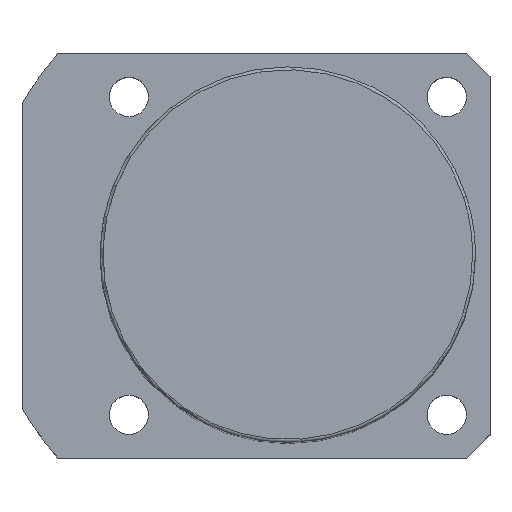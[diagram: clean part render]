
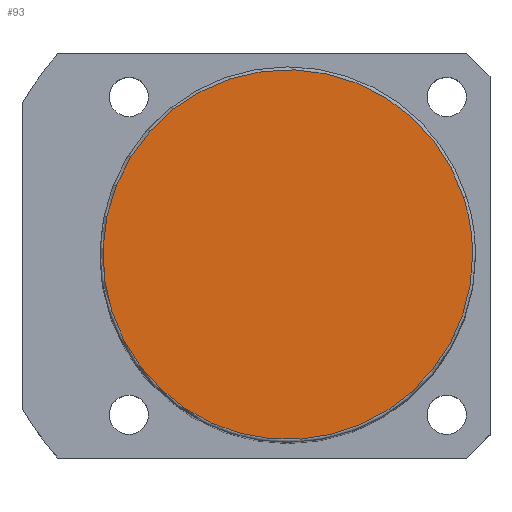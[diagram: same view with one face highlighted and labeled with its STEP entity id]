
A CAD part, top view. The second image highlights one B-rep face of the part: STEP entity #93.
In plain terms, the highlighted planar face has unit normal (0, 0, 1).
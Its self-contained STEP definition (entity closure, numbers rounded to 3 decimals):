
#16=CARTESIAN_POINT('',(30.434,9.889,136.0));
#17=VERTEX_POINT('',#16);
#45=CARTESIAN_POINT('',(-30.434,-9.889,136.0));
#46=VERTEX_POINT('',#45);
#54=CARTESIAN_POINT('',(0.0,0.0,136.0));
#55=DIRECTION('',(0.0,0.0,1.0));
#56=DIRECTION('',(1.0,0.0,0.0));
#57=AXIS2_PLACEMENT_3D('',#54,#55,#56);
#58=CIRCLE('',#57,32.0);
#59=EDGE_CURVE('no 890',#17,#46,#58,.T.);
#69=CARTESIAN_POINT('',(32.0,0.0,136.0));
#70=VERTEX_POINT('',#69);
#71=CARTESIAN_POINT('',(0.0,0.0,136.0));
#72=DIRECTION('',(0.0,0.0,1.0));
#73=DIRECTION('',(1.0,0.0,0.0));
#74=AXIS2_PLACEMENT_3D('',#71,#72,#73);
#75=CIRCLE('',#74,32.0);
#76=EDGE_CURVE('no 899',#70,#17,#75,.T.);
#77=ORIENTED_EDGE('',*,*,#76,.T.);
#78=ORIENTED_EDGE('',*,*,#59,.T.);
#79=CARTESIAN_POINT('',(0.0,0.0,136.0));
#80=DIRECTION('',(0.0,0.0,1.0));
#81=DIRECTION('',(1.0,0.0,0.0));
#82=AXIS2_PLACEMENT_3D('',#79,#80,#81);
#83=CIRCLE('',#82,32.0);
#84=EDGE_CURVE('no 905',#46,#70,#83,.T.);
#85=ORIENTED_EDGE('',*,*,#84,.T.);
#86=EDGE_LOOP('',(#77,#78,#85));
#87=FACE_OUTER_BOUND('',#86,.T.);
#88=CARTESIAN_POINT('',(0.0,0.0,136.0));
#89=DIRECTION('',(0.0,0.0,1.0));
#90=DIRECTION('',(1.0,0.0,0.0));
#91=AXIS2_PLACEMENT_3D('',#88,#89,#90);
#92=PLANE('',#91);
#93=ADVANCED_FACE('no 892',(#87),#92,.T.);
